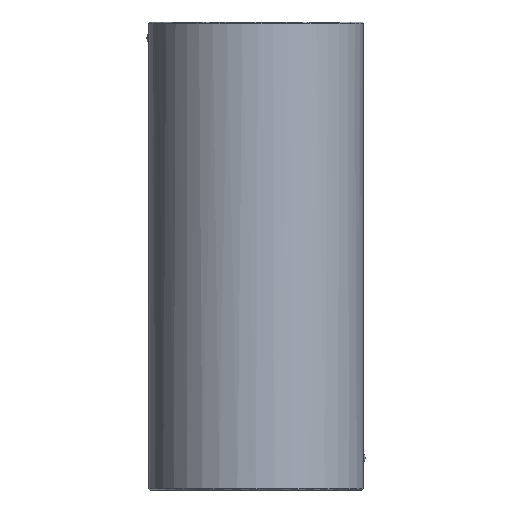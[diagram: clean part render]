
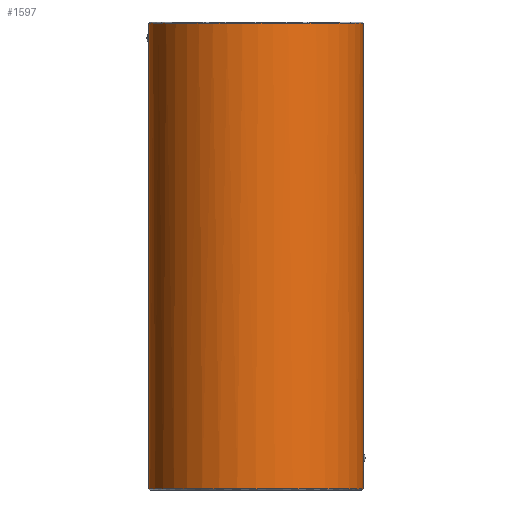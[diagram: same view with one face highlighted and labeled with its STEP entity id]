
A CAD part, front view. The second image highlights one B-rep face of the part: STEP entity #1597.
In plain terms, the highlighted cylindrical face has radius 27.5 mm (diameter 55 mm), a partial arc.
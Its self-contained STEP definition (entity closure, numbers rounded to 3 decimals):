
#1369=CARTESIAN_POINT('Vertex',(-27.5,0.,0.3)) ;
#1376=CARTESIAN_POINT('Vertex',(27.5,0.,0.3)) ;
#1379=CARTESIAN_POINT('Axis2P3D Location',(0.,0.,0.3)) ;
#1497=CARTESIAN_POINT('Axis2P3D Location',(0.,0.,120.)) ;
#1502=CARTESIAN_POINT('Line Origine',(27.5,0.,120.)) ;
#1506=CARTESIAN_POINT('Vertex',(27.5,0.,6.877)) ;
#1510=CARTESIAN_POINT('Control Point',(27.468,-1.333,8.463)) ;
#1511=CARTESIAN_POINT('Control Point',(27.463,-1.429,7.999)) ;
#1512=CARTESIAN_POINT('Control Point',(27.468,-1.314,7.487)) ;
#1513=CARTESIAN_POINT('Control Point',(27.49,-0.949,7.076)) ;
#1514=CARTESIAN_POINT('Control Point',(27.5,-0.474,6.877)) ;
#1515=CARTESIAN_POINT('Control Point',(27.5,0.,6.877)) ;
#1516=CARTESIAN_POINT('Vertex',(27.468,-1.333,8.463)) ;
#1520=CARTESIAN_POINT('Control Point',(27.5,0.,9.523)) ;
#1521=CARTESIAN_POINT('Control Point',(27.5,-0.461,9.523)) ;
#1522=CARTESIAN_POINT('Control Point',(27.488,-0.924,9.322)) ;
#1523=CARTESIAN_POINT('Control Point',(27.472,-1.239,8.914)) ;
#1524=CARTESIAN_POINT('Control Point',(27.468,-1.333,8.463)) ;
#1525=CARTESIAN_POINT('Vertex',(27.5,0.,9.523)) ;
#1528=CARTESIAN_POINT('Line Origine',(27.5,0.,120.)) ;
#1532=CARTESIAN_POINT('Vertex',(27.5,0.,119.7)) ;
#1536=CARTESIAN_POINT('Control Point',(-27.5,0.,119.7)) ;
#1537=CARTESIAN_POINT('Control Point',(-27.5,-4.32,119.7)) ;
#1538=CARTESIAN_POINT('Control Point',(-26.652,-8.639,119.7)) ;
#1539=CARTESIAN_POINT('Control Point',(-24.955,-12.737,119.7)) ;
#1540=CARTESIAN_POINT('Control Point',(-20.045,-20.045,119.7)) ;
#1541=CARTESIAN_POINT('Control Point',(-12.737,-24.955,119.7)) ;
#1542=CARTESIAN_POINT('Control Point',(-8.639,-26.652,119.7)) ;
#1543=CARTESIAN_POINT('Control Point',(0.,-28.348,119.7)) ;
#1544=CARTESIAN_POINT('Control Point',(8.639,-26.652,119.7)) ;
#1545=CARTESIAN_POINT('Control Point',(12.737,-24.955,119.7)) ;
#1546=CARTESIAN_POINT('Control Point',(20.045,-20.045,119.7)) ;
#1547=CARTESIAN_POINT('Control Point',(24.955,-12.737,119.7)) ;
#1548=CARTESIAN_POINT('Control Point',(26.652,-8.639,119.7)) ;
#1549=CARTESIAN_POINT('Control Point',(27.5,-4.32,119.7)) ;
#1550=CARTESIAN_POINT('Control Point',(27.5,0.,119.7)) ;
#1551=CARTESIAN_POINT('Vertex',(-27.5,0.,119.7)) ;
#1554=CARTESIAN_POINT('Line Origine',(-27.5,0.,120.)) ;
#1558=CARTESIAN_POINT('Vertex',(-27.5,0.,117.223)) ;
#1562=CARTESIAN_POINT('Control Point',(-27.468,-1.333,115.637)) ;
#1563=CARTESIAN_POINT('Control Point',(-27.463,-1.429,116.101)) ;
#1564=CARTESIAN_POINT('Control Point',(-27.468,-1.314,116.613)) ;
#1565=CARTESIAN_POINT('Control Point',(-27.49,-0.949,117.024)) ;
#1566=CARTESIAN_POINT('Control Point',(-27.5,-0.474,117.223)) ;
#1567=CARTESIAN_POINT('Control Point',(-27.5,0.,117.223)) ;
#1568=CARTESIAN_POINT('Vertex',(-27.468,-1.333,115.637)) ;
#1572=CARTESIAN_POINT('Control Point',(-27.5,0.,114.577)) ;
#1573=CARTESIAN_POINT('Control Point',(-27.5,-0.461,114.577)) ;
#1574=CARTESIAN_POINT('Control Point',(-27.488,-0.924,114.778)) ;
#1575=CARTESIAN_POINT('Control Point',(-27.472,-1.239,115.186)) ;
#1576=CARTESIAN_POINT('Control Point',(-27.468,-1.333,115.637)) ;
#1577=CARTESIAN_POINT('Vertex',(-27.5,0.,114.577)) ;
#1580=CARTESIAN_POINT('Line Origine',(-27.5,0.,120.)) ;
#1380=DIRECTION('Axis2P3D Direction',(0.,-0.,1.)) ;
#1498=DIRECTION('Axis2P3D Direction',(0.,0.,-1.)) ;
#1499=DIRECTION('Axis2P3D XDirection',(1.,0.,0.)) ;
#1503=DIRECTION('Vector Direction',(0.,0.,-1.)) ;
#1529=DIRECTION('Vector Direction',(0.,0.,-1.)) ;
#1555=DIRECTION('Vector Direction',(0.,0.,-1.)) ;
#1581=DIRECTION('Vector Direction',(0.,0.,-1.)) ;
#1381=AXIS2_PLACEMENT_3D('Circle Axis2P3D',#1379,#1380,$) ;
#1500=AXIS2_PLACEMENT_3D('Cylinder Axis2P3D',#1497,#1498,#1499) ;
#1586=ORIENTED_EDGE('',*,*,#1508,.T.) ;
#1587=ORIENTED_EDGE('',*,*,#1518,.F.) ;
#1588=ORIENTED_EDGE('',*,*,#1527,.F.) ;
#1589=ORIENTED_EDGE('',*,*,#1534,.T.) ;
#1590=ORIENTED_EDGE('',*,*,#1553,.F.) ;
#1591=ORIENTED_EDGE('',*,*,#1560,.T.) ;
#1592=ORIENTED_EDGE('',*,*,#1570,.F.) ;
#1593=ORIENTED_EDGE('',*,*,#1579,.F.) ;
#1594=ORIENTED_EDGE('',*,*,#1584,.T.) ;
#1595=ORIENTED_EDGE('',*,*,#1383,.T.) ;
#1504=VECTOR('Line Direction',#1503,1.) ;
#1530=VECTOR('Line Direction',#1529,1.) ;
#1556=VECTOR('Line Direction',#1555,1.) ;
#1582=VECTOR('Line Direction',#1581,1.) ;
#1597=ADVANCED_FACE('730-48x120',(#1596),#1501,.T.) ;
#1509=B_SPLINE_CURVE_WITH_KNOTS('',5,(#1510,#1511,#1512,#1513,#1514,#1515),.UNSPECIFIED.,.F.,.U.,(6,6),(0.,3.36),.UNSPECIFIED.) ;
#1519=B_SPLINE_CURVE_WITH_KNOTS('',4,(#1520,#1521,#1522,#1523,#1524),.UNSPECIFIED.,.F.,.U.,(5,5),(0.,2.611),.UNSPECIFIED.) ;
#1535=B_SPLINE_CURVE_WITH_KNOTS('',5,(#1536,#1537,#1538,#1539,#1540,#1541,#1542,#1543,#1544,#1545,#1546,#1547,#1548,#1549,#1550),.UNSPECIFIED.,.F.,.U.,(6,3,3,3,6),(-43.197,-21.598,0.,21.598,43.197),.UNSPECIFIED.) ;
#1561=B_SPLINE_CURVE_WITH_KNOTS('',5,(#1562,#1563,#1564,#1565,#1566,#1567),.UNSPECIFIED.,.F.,.U.,(6,6),(0.,3.36),.UNSPECIFIED.) ;
#1571=B_SPLINE_CURVE_WITH_KNOTS('',4,(#1572,#1573,#1574,#1575,#1576),.UNSPECIFIED.,.F.,.U.,(5,5),(0.,2.611),.UNSPECIFIED.) ;
#1382=CIRCLE('generated circle',#1381,27.5) ;
#1501=CYLINDRICAL_SURFACE('generated cylinder',#1500,27.5) ;
#1383=EDGE_CURVE('',#1370,#1377,#1382,.T.) ;
#1508=EDGE_CURVE('',#1377,#1507,#1505,.F.) ;
#1518=EDGE_CURVE('',#1517,#1507,#1509,.T.) ;
#1527=EDGE_CURVE('',#1526,#1517,#1519,.T.) ;
#1534=EDGE_CURVE('',#1526,#1533,#1531,.F.) ;
#1553=EDGE_CURVE('',#1552,#1533,#1535,.T.) ;
#1560=EDGE_CURVE('',#1552,#1559,#1557,.T.) ;
#1570=EDGE_CURVE('',#1569,#1559,#1561,.T.) ;
#1579=EDGE_CURVE('',#1578,#1569,#1571,.T.) ;
#1584=EDGE_CURVE('',#1578,#1370,#1583,.T.) ;
#1585=EDGE_LOOP('',(#1586,#1587,#1588,#1589,#1590,#1591,#1592,#1593,#1594,#1595)) ;
#1596=FACE_OUTER_BOUND('',#1585,.T.) ;
#1505=LINE('Line',#1502,#1504) ;
#1531=LINE('Line',#1528,#1530) ;
#1557=LINE('Line',#1554,#1556) ;
#1583=LINE('Line',#1580,#1582) ;
#1370=VERTEX_POINT('',#1369) ;
#1377=VERTEX_POINT('',#1376) ;
#1507=VERTEX_POINT('',#1506) ;
#1517=VERTEX_POINT('',#1516) ;
#1526=VERTEX_POINT('',#1525) ;
#1533=VERTEX_POINT('',#1532) ;
#1552=VERTEX_POINT('',#1551) ;
#1559=VERTEX_POINT('',#1558) ;
#1569=VERTEX_POINT('',#1568) ;
#1578=VERTEX_POINT('',#1577) ;
